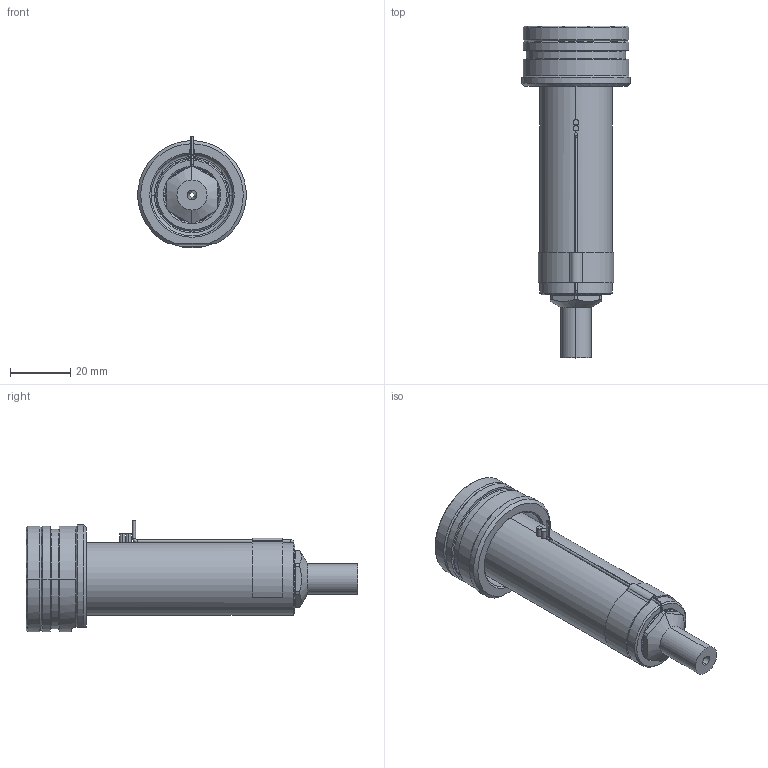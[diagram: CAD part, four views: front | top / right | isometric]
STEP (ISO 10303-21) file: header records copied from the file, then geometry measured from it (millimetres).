
FILE_DESCRIPTION((''),'2;1');
FILE_NAME('EO06_VG-FBE_STD_080_SW','2024-02-19T13:48:26',('sundharh'),(''),'CREO PARAMETRIC BY PTC INC, 2023154','CREO PARAMETRIC BY PTC INC, 2023154','');
FILE_SCHEMA(('CONFIG_CONTROL_DESIGN'));
Length unit declared in the file: millimetre
Products named in the file (1): EO06_VG-FBE_STD_080_SW
Bounding box: 35.93 x 110 x 37 mm (x, y, z)
Volume: 48154.3 mm3; surface area: 15310.3 mm2
Topology: 2 solids, 2 shells, 205 faces, 506 edges, 303 vertices
Faces by surface type: cylinder 76, plane 42, cone 40, torus 29, bspline 16, sphere 2
Entity records: 6958 total; most frequent: CARTESIAN_POINT 2037, DIRECTION 1102, ORIENTED_EDGE 1000, EDGE_CURVE 500, AXIS2_PLACEMENT_3D 466, VERTEX_POINT 303, CIRCLE 277, EDGE_LOOP 219
